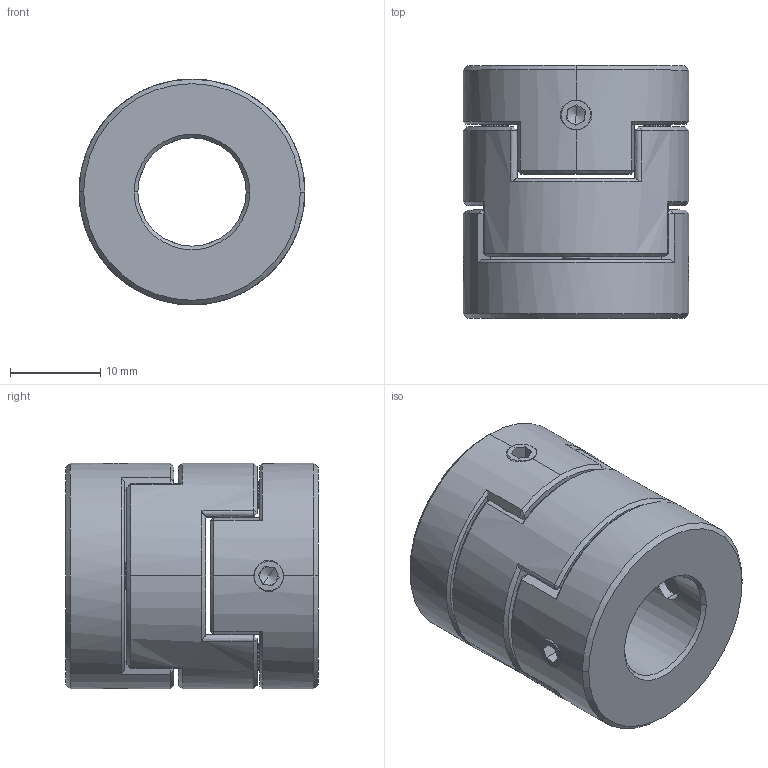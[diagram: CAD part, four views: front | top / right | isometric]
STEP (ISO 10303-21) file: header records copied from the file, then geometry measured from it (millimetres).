
FILE_DESCRIPTION (( 'STEP AP203' ), '1' );
FILE_NAME ('LZ-D-D25L28-12-12.STEP', '2021-10-30T02:23:24', ( '' ), ( '' ), 'SwSTEP 2.0', 'SolidWorks 2018', '' );
FILE_SCHEMA (( 'CONFIG_CONTROL_DESIGN' ));
Length unit declared in the file: millimetre
Products named in the file (1): LZ-D-D25L28-12-12
Bounding box: 25 x 28 x 25 mm (x, y, z)
Volume: 10093.3 mm3; surface area: 5507 mm2
Topology: 1 solids, 1 shells, 220 faces, 586 edges, 356 vertices
Faces by surface type: plane 90, cone 54, bspline 50, cylinder 26
Entity records: 10012 total; most frequent: CARTESIAN_POINT 5002, ORIENTED_EDGE 1156, DIRECTION 850, EDGE_CURVE 578, VERTEX_POINT 356, AXIS2_PLACEMENT_3D 309, EDGE_LOOP 234, VECTOR 232
